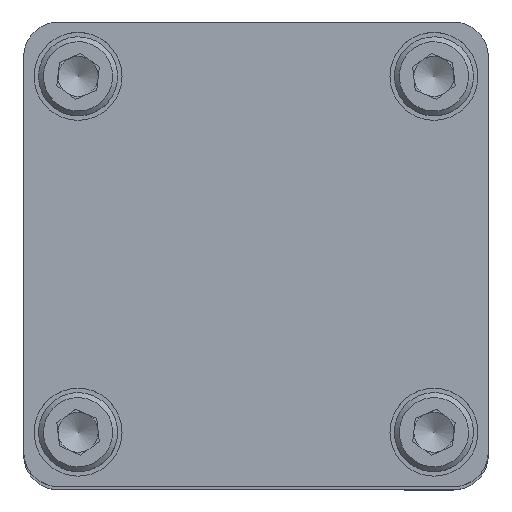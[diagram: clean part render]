
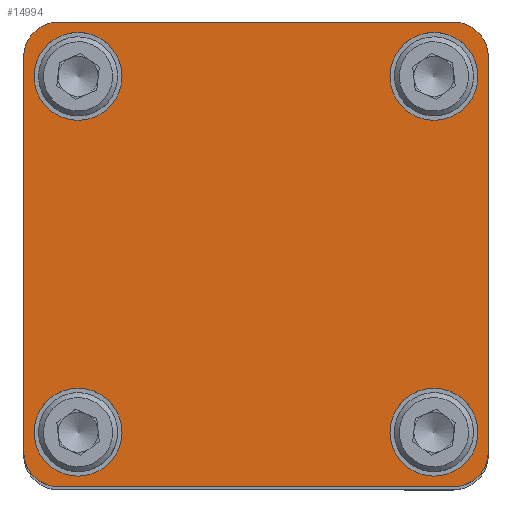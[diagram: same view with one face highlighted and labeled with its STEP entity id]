
A CAD part, top view. The second image highlights one B-rep face of the part: STEP entity #14994.
In plain terms, the highlighted planar face has unit normal (0, 0, 1) as drawn and (1, 0, 0) by its records, which use the part's own axes.
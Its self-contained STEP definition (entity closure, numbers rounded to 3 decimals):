
#1637=FACE_BOUND('',#4966,.T.);
#1638=FACE_BOUND('',#4967,.T.);
#1639=FACE_BOUND('',#4968,.T.);
#1640=FACE_BOUND('',#4969,.T.);
#1781=LINE('',#20101,#2908);
#1792=LINE('',#20176,#2919);
#1796=LINE('',#20185,#2923);
#1802=LINE('',#20198,#2929);
#2908=VECTOR('',#17173,80.);
#2919=VECTOR('',#17222,80.);
#2923=VECTOR('',#17228,80.);
#2929=VECTOR('',#17236,80.);
#4062=FACE_OUTER_BOUND('',#4965,.T.);
#4965=EDGE_LOOP('',(#10382,#10383,#10384,#10385,#10386,#10387,#10388,#10389));
#4966=EDGE_LOOP('',(#10390));
#4967=EDGE_LOOP('',(#10391));
#4968=EDGE_LOOP('',(#10392));
#4969=EDGE_LOOP('',(#10393));
#5895=CIRCLE('',#16102,8.9);
#5897=CIRCLE('',#16106,8.9);
#5899=CIRCLE('',#16110,8.9);
#5901=CIRCLE('',#16114,8.9);
#5902=CIRCLE('',#16117,7.);
#5903=CIRCLE('',#16119,7.);
#5904=CIRCLE('',#16121,7.);
#5905=CIRCLE('',#16123,7.);
#6233=VERTEX_POINT('',#20098);
#6234=VERTEX_POINT('',#20100);
#6250=VERTEX_POINT('',#20174);
#6251=VERTEX_POINT('',#20175);
#6254=VERTEX_POINT('',#20183);
#6255=VERTEX_POINT('',#20184);
#6260=VERTEX_POINT('',#20195);
#6261=VERTEX_POINT('',#20197);
#6264=VERTEX_POINT('',#20210);
#6266=VERTEX_POINT('',#20217);
#6268=VERTEX_POINT('',#20224);
#6270=VERTEX_POINT('',#20231);
#7811=EDGE_CURVE('',#6233,#6234,#1781,.T.);
#7835=EDGE_CURVE('',#6250,#6251,#1792,.T.);
#7839=EDGE_CURVE('',#6254,#6255,#1796,.T.);
#7845=EDGE_CURVE('',#6260,#6261,#1802,.T.);
#7854=EDGE_CURVE('',#6264,#6264,#5895,.T.);
#7857=EDGE_CURVE('',#6266,#6266,#5897,.T.);
#7860=EDGE_CURVE('',#6268,#6268,#5899,.T.);
#7863=EDGE_CURVE('',#6270,#6270,#5901,.T.);
#7864=EDGE_CURVE('',#6260,#6251,#5902,.T.);
#7865=EDGE_CURVE('',#6250,#6255,#5903,.T.);
#7866=EDGE_CURVE('',#6233,#6261,#5904,.T.);
#7867=EDGE_CURVE('',#6254,#6234,#5905,.T.);
#10382=ORIENTED_EDGE('',*,*,#7845,.F.);
#10383=ORIENTED_EDGE('',*,*,#7864,.T.);
#10384=ORIENTED_EDGE('',*,*,#7835,.F.);
#10385=ORIENTED_EDGE('',*,*,#7865,.T.);
#10386=ORIENTED_EDGE('',*,*,#7839,.F.);
#10387=ORIENTED_EDGE('',*,*,#7867,.T.);
#10388=ORIENTED_EDGE('',*,*,#7811,.F.);
#10389=ORIENTED_EDGE('',*,*,#7866,.T.);
#10390=ORIENTED_EDGE('',*,*,#7863,.F.);
#10391=ORIENTED_EDGE('',*,*,#7860,.F.);
#10392=ORIENTED_EDGE('',*,*,#7857,.F.);
#10393=ORIENTED_EDGE('',*,*,#7854,.F.);
#14658=PLANE('',#16143);
#14994=ADVANCED_FACE('',(#4062,#1637,#1638,#1639,#1640),#14658,.T.);
#16102=AXIS2_PLACEMENT_3D('',#20212,#17255,#17256);
#16106=AXIS2_PLACEMENT_3D('',#20219,#17264,#17265);
#16110=AXIS2_PLACEMENT_3D('',#20226,#17273,#17274);
#16114=AXIS2_PLACEMENT_3D('',#20233,#17282,#17283);
#16117=AXIS2_PLACEMENT_3D('',#20236,#17288,#17289);
#16119=AXIS2_PLACEMENT_3D('',#20238,#17292,#17293);
#16121=AXIS2_PLACEMENT_3D('',#20240,#17296,#17297);
#16123=AXIS2_PLACEMENT_3D('',#20242,#17300,#17301);
#16143=AXIS2_PLACEMENT_3D('',#20277,#17345,#17346);
#17173=DIRECTION('',(0.,0.,-1.));
#17222=DIRECTION('',(0.,0.,1.));
#17228=DIRECTION('',(0.,-1.,0.));
#17236=DIRECTION('',(0.,1.,0.));
#17255=DIRECTION('center_axis',(1.,0.,0.));
#17256=DIRECTION('ref_axis',(0.,0.,-1.));
#17264=DIRECTION('center_axis',(1.,0.,0.));
#17265=DIRECTION('ref_axis',(0.,0.,-1.));
#17273=DIRECTION('center_axis',(1.,0.,0.));
#17274=DIRECTION('ref_axis',(0.,0.,-1.));
#17282=DIRECTION('center_axis',(1.,0.,0.));
#17283=DIRECTION('ref_axis',(0.,0.,-1.));
#17288=DIRECTION('center_axis',(1.,0.,0.));
#17289=DIRECTION('ref_axis',(0.,0.,-1.));
#17292=DIRECTION('center_axis',(1.,0.,0.));
#17293=DIRECTION('ref_axis',(0.,0.,-1.));
#17296=DIRECTION('center_axis',(1.,0.,0.));
#17297=DIRECTION('ref_axis',(0.,0.,-1.));
#17300=DIRECTION('center_axis',(1.,0.,0.));
#17301=DIRECTION('ref_axis',(0.,0.,-1.));
#17345=DIRECTION('center_axis',(1.,0.,0.));
#17346=DIRECTION('ref_axis',(0.,0.,-1.));
#20098=CARTESIAN_POINT('',(0.,47.,40.));
#20100=CARTESIAN_POINT('',(0.,47.,-40.));
#20101=CARTESIAN_POINT('',(0.,47.,40.));
#20174=CARTESIAN_POINT('',(0.,-47.,-40.));
#20175=CARTESIAN_POINT('',(0.,-47.,40.));
#20176=CARTESIAN_POINT('',(0.,-47.,-40.));
#20183=CARTESIAN_POINT('',(0.,40.,-47.));
#20184=CARTESIAN_POINT('',(0.,-40.,-47.));
#20185=CARTESIAN_POINT('',(0.,40.,-47.));
#20195=CARTESIAN_POINT('',(0.,-40.,47.));
#20197=CARTESIAN_POINT('',(0.,40.,47.));
#20198=CARTESIAN_POINT('',(0.,-40.,47.));
#20210=CARTESIAN_POINT('',(0.,36.,44.9));
#20212=CARTESIAN_POINT('Origin',(0.,36.,36.));
#20217=CARTESIAN_POINT('',(0.,36.,-27.1));
#20219=CARTESIAN_POINT('Origin',(0.,36.,-36.));
#20224=CARTESIAN_POINT('',(0.,-36.,44.9));
#20226=CARTESIAN_POINT('Origin',(0.,-36.,36.));
#20231=CARTESIAN_POINT('',(0.,-36.,-27.1));
#20233=CARTESIAN_POINT('Origin',(0.,-36.,-36.));
#20236=CARTESIAN_POINT('Origin',(0.,-40.,40.));
#20238=CARTESIAN_POINT('Origin',(0.,-40.,-40.));
#20240=CARTESIAN_POINT('Origin',(0.,40.,40.));
#20242=CARTESIAN_POINT('Origin',(0.,40.,-40.));
#20277=CARTESIAN_POINT('Origin',(0.,0.,0.));
